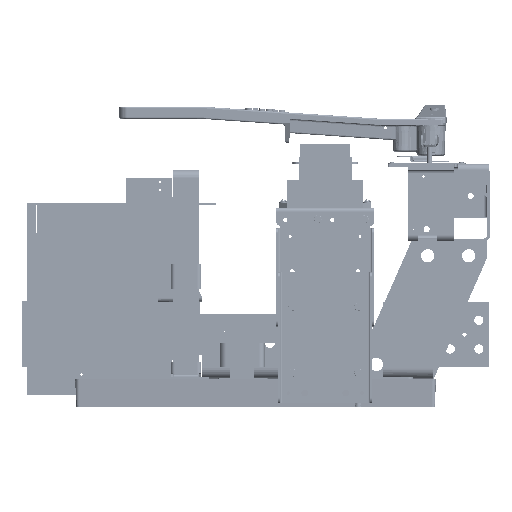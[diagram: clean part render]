
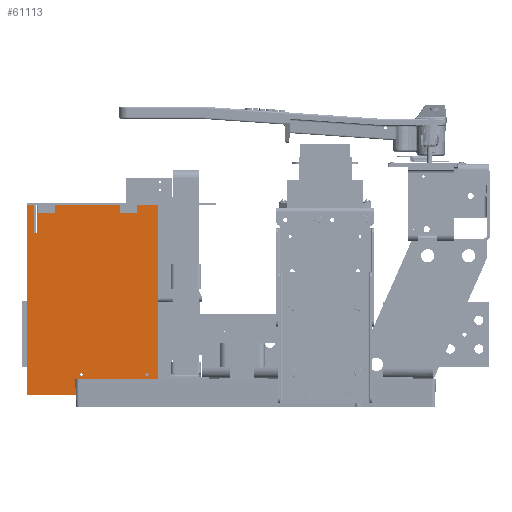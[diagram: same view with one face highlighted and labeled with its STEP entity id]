
A CAD part, left-side view. The second image highlights one B-rep face of the part: STEP entity #61113.
In plain terms, the highlighted planar face has unit normal (-1, 0, 0) as drawn and (0, 0, -1) by its records, which use the part's own axes.
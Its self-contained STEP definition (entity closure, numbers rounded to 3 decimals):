
#2907=FACE_BOUND('',#12493,.T.);
#2908=FACE_BOUND('',#12494,.T.);
#2909=FACE_BOUND('',#12495,.T.);
#2910=FACE_BOUND('',#12496,.T.);
#4736=CIRCLE('',#67039,0.097);
#4738=CIRCLE('',#67042,0.097);
#4740=CIRCLE('',#67045,0.097);
#4742=CIRCLE('',#67048,0.097);
#8609=FACE_OUTER_BOUND('',#12492,.T.);
#12492=EDGE_LOOP('',(#49127,#49128,#49129,#49130,#49131,#49132,#49133,#49134,
#49135,#49136,#49137,#49138));
#12493=EDGE_LOOP('',(#49139));
#12494=EDGE_LOOP('',(#49140));
#12495=EDGE_LOOP('',(#49141));
#12496=EDGE_LOOP('',(#49142));
#17390=LINE('',#98896,#22811);
#17394=LINE('',#98904,#22815);
#17397=LINE('',#98910,#22818);
#17400=LINE('',#98916,#22821);
#17403=LINE('',#98922,#22824);
#17406=LINE('',#98928,#22827);
#17409=LINE('',#98934,#22830);
#17412=LINE('',#98940,#22833);
#17415=LINE('',#98946,#22836);
#17418=LINE('',#98952,#22839);
#17421=LINE('',#98958,#22842);
#17424=LINE('',#98963,#22845);
#22811=VECTOR('',#79140,0.394);
#22815=VECTOR('',#79146,0.394);
#22818=VECTOR('',#79151,0.394);
#22821=VECTOR('',#79156,0.394);
#22824=VECTOR('',#79161,0.394);
#22827=VECTOR('',#79166,0.394);
#22830=VECTOR('',#79171,0.394);
#22833=VECTOR('',#79176,0.394);
#22836=VECTOR('',#79181,0.394);
#22839=VECTOR('',#79186,0.394);
#22842=VECTOR('',#79191,0.394);
#22845=VECTOR('',#79196,0.394);
#28378=VERTEX_POINT('',#98870);
#28380=VERTEX_POINT('',#98876);
#28382=VERTEX_POINT('',#98882);
#28384=VERTEX_POINT('',#98888);
#28386=VERTEX_POINT('',#98894);
#28387=VERTEX_POINT('',#98895);
#28390=VERTEX_POINT('',#98903);
#28392=VERTEX_POINT('',#98909);
#28394=VERTEX_POINT('',#98915);
#28396=VERTEX_POINT('',#98921);
#28398=VERTEX_POINT('',#98927);
#28400=VERTEX_POINT('',#98933);
#28402=VERTEX_POINT('',#98939);
#28404=VERTEX_POINT('',#98945);
#28406=VERTEX_POINT('',#98951);
#28408=VERTEX_POINT('',#98957);
#35661=EDGE_CURVE('',#28378,#28378,#4736,.T.);
#35664=EDGE_CURVE('',#28380,#28380,#4738,.T.);
#35667=EDGE_CURVE('',#28382,#28382,#4740,.T.);
#35670=EDGE_CURVE('',#28384,#28384,#4742,.T.);
#35673=EDGE_CURVE('',#28386,#28387,#17390,.T.);
#35677=EDGE_CURVE('',#28390,#28386,#17394,.T.);
#35680=EDGE_CURVE('',#28392,#28390,#17397,.T.);
#35683=EDGE_CURVE('',#28394,#28392,#17400,.T.);
#35686=EDGE_CURVE('',#28396,#28394,#17403,.T.);
#35689=EDGE_CURVE('',#28398,#28396,#17406,.T.);
#35692=EDGE_CURVE('',#28400,#28398,#17409,.T.);
#35695=EDGE_CURVE('',#28402,#28400,#17412,.T.);
#35698=EDGE_CURVE('',#28404,#28402,#17415,.T.);
#35701=EDGE_CURVE('',#28406,#28404,#17418,.T.);
#35704=EDGE_CURVE('',#28408,#28406,#17421,.T.);
#35707=EDGE_CURVE('',#28387,#28408,#17424,.T.);
#49127=ORIENTED_EDGE('',*,*,#35707,.F.);
#49128=ORIENTED_EDGE('',*,*,#35673,.F.);
#49129=ORIENTED_EDGE('',*,*,#35677,.F.);
#49130=ORIENTED_EDGE('',*,*,#35680,.F.);
#49131=ORIENTED_EDGE('',*,*,#35683,.F.);
#49132=ORIENTED_EDGE('',*,*,#35686,.F.);
#49133=ORIENTED_EDGE('',*,*,#35689,.F.);
#49134=ORIENTED_EDGE('',*,*,#35692,.F.);
#49135=ORIENTED_EDGE('',*,*,#35695,.F.);
#49136=ORIENTED_EDGE('',*,*,#35698,.F.);
#49137=ORIENTED_EDGE('',*,*,#35701,.F.);
#49138=ORIENTED_EDGE('',*,*,#35704,.F.);
#49139=ORIENTED_EDGE('',*,*,#35661,.T.);
#49140=ORIENTED_EDGE('',*,*,#35664,.T.);
#49141=ORIENTED_EDGE('',*,*,#35667,.T.);
#49142=ORIENTED_EDGE('',*,*,#35670,.T.);
#58500=PLANE('',#67063);
#61113=ADVANCED_FACE('',(#8609,#2907,#2908,#2909,#2910),#58500,.F.);
#67039=AXIS2_PLACEMENT_3D('',#98871,#79112,#79113);
#67042=AXIS2_PLACEMENT_3D('',#98877,#79119,#79120);
#67045=AXIS2_PLACEMENT_3D('',#98883,#79126,#79127);
#67048=AXIS2_PLACEMENT_3D('',#98889,#79133,#79134);
#67063=AXIS2_PLACEMENT_3D('',#98966,#79200,#79201);
#79112=DIRECTION('center_axis',(0.,0.,1.));
#79113=DIRECTION('ref_axis',(-1.,0.,0.));
#79119=DIRECTION('center_axis',(0.,0.,1.));
#79120=DIRECTION('ref_axis',(-1.,0.,0.));
#79126=DIRECTION('center_axis',(0.,0.,1.));
#79127=DIRECTION('ref_axis',(-1.,0.,0.));
#79133=DIRECTION('center_axis',(0.,0.,1.));
#79134=DIRECTION('ref_axis',(-1.,0.,0.));
#79140=DIRECTION('',(1.,0.,0.));
#79146=DIRECTION('',(0.,1.,0.));
#79151=DIRECTION('',(1.,0.,0.));
#79156=DIRECTION('',(0.,-1.,0.));
#79161=DIRECTION('',(-1.,0.,0.));
#79166=DIRECTION('',(0.,-1.,0.));
#79171=DIRECTION('',(1.,0.,0.));
#79176=DIRECTION('',(0.,-1.,0.));
#79181=DIRECTION('',(-1.,0.,0.));
#79186=DIRECTION('',(0.,1.,0.));
#79191=DIRECTION('',(1.,0.,0.));
#79196=DIRECTION('',(0.,-1.,0.));
#79200=DIRECTION('center_axis',(0.,0.,1.));
#79201=DIRECTION('ref_axis',(1.,0.,0.));
#98870=CARTESIAN_POINT('',(0.347,2.,0.));
#98871=CARTESIAN_POINT('Origin',(0.25,2.,0.));
#98876=CARTESIAN_POINT('',(0.347,7.,0.));
#98877=CARTESIAN_POINT('Origin',(0.25,7.,0.));
#98882=CARTESIAN_POINT('',(10.472,0.688,0.));
#98883=CARTESIAN_POINT('Origin',(10.375,0.688,0.));
#98888=CARTESIAN_POINT('',(10.472,4.688,0.));
#98889=CARTESIAN_POINT('Origin',(10.375,4.688,0.));
#98894=CARTESIAN_POINT('',(10.625,5.094,0.));
#98895=CARTESIAN_POINT('',(11.156,5.094,0.));
#98896=CARTESIAN_POINT('',(10.625,5.094,0.));
#98903=CARTESIAN_POINT('',(10.625,0.,0.));
#98904=CARTESIAN_POINT('',(10.625,0.,0.));
#98909=CARTESIAN_POINT('',(0.,0.,0.));
#98910=CARTESIAN_POINT('',(0.,0.,0.));
#98915=CARTESIAN_POINT('',(0.,7.422,0.));
#98916=CARTESIAN_POINT('',(0.,7.422,0.));
#98921=CARTESIAN_POINT('',(1.75,7.422,0.));
#98922=CARTESIAN_POINT('',(1.75,7.422,0.));
#98927=CARTESIAN_POINT('',(1.75,7.578,0.));
#98928=CARTESIAN_POINT('',(1.75,7.578,0.));
#98933=CARTESIAN_POINT('',(0.,7.578,0.));
#98934=CARTESIAN_POINT('',(0.,7.578,0.));
#98939=CARTESIAN_POINT('',(0.,8.,0.));
#98940=CARTESIAN_POINT('',(0.,8.,0.));
#98945=CARTESIAN_POINT('',(11.625,8.,0.));
#98946=CARTESIAN_POINT('',(11.625,8.,0.));
#98951=CARTESIAN_POINT('',(11.625,4.719,0.));
#98952=CARTESIAN_POINT('',(11.625,4.719,0.));
#98957=CARTESIAN_POINT('',(11.156,4.719,0.));
#98958=CARTESIAN_POINT('',(11.156,4.719,0.));
#98963=CARTESIAN_POINT('',(11.156,5.094,0.));
#98966=CARTESIAN_POINT('Origin',(5.401,4.41,0.));
